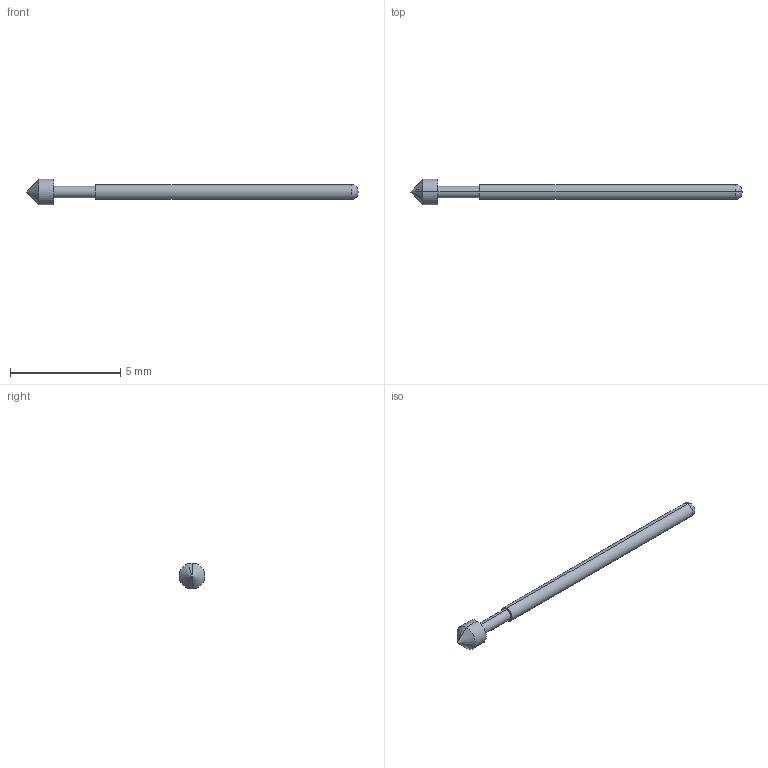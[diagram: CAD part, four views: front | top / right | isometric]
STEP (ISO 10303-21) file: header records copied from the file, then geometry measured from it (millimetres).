
FILE_DESCRIPTION (( 'STEP AP203' ), '1' );
FILE_NAME ('IP068B-1A.STEP', '2014-08-20T07:07:40', ( '' ), ( '' ), 'SwSTEP 2.0', 'SolidWorks 2011', '' );
FILE_SCHEMA (( 'CONFIG_CONTROL_DESIGN' ));
Length unit declared in the file: millimetre
Products named in the file (1): IP068B-1A
Bounding box: 15.07 x 1.16 x 1.16 mm (x, y, z)
Volume: 5.6 mm3; surface area: 33.6 mm2
Topology: 1 solids, 1 shells, 13 faces, 26 edges, 15 vertices
Faces by surface type: cylinder 6, plane 3, torus 2, cone 2
Entity records: 407 total; most frequent: DIRECTION 68, CARTESIAN_POINT 53, ORIENTED_EDGE 48, AXIS2_PLACEMENT_3D 30, EDGE_CURVE 24, CIRCLE 16, VERTEX_POINT 15, EDGE_LOOP 15
